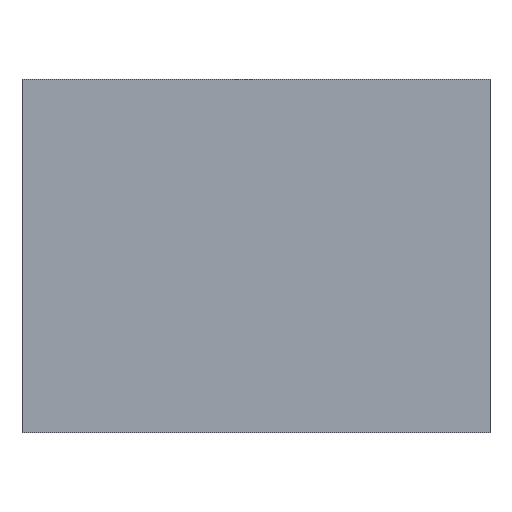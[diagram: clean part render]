
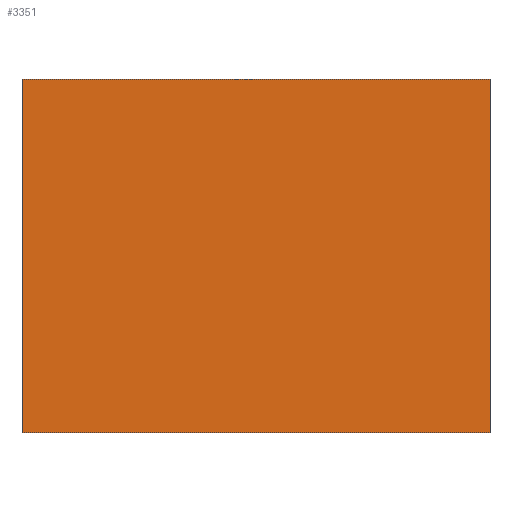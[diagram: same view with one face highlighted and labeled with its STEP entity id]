
A CAD part, top view. The second image highlights one B-rep face of the part: STEP entity #3351.
In plain terms, the highlighted planar face has unit normal (0, 0, 1).
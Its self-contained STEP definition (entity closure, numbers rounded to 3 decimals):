
#3215=CARTESIAN_POINT('Vertex',(102.5,77.5,25.)) ;
#3229=CARTESIAN_POINT('Vertex',(-102.5,77.5,25.)) ;
#3232=CARTESIAN_POINT('Line Origine',(0.,77.5,25.)) ;
#3260=CARTESIAN_POINT('Vertex',(-102.5,-77.5,25.)) ;
#3263=CARTESIAN_POINT('Line Origine',(-102.5,0.,25.)) ;
#3291=CARTESIAN_POINT('Vertex',(102.5,-77.5,25.)) ;
#3294=CARTESIAN_POINT('Line Origine',(0.,-77.5,25.)) ;
#3316=CARTESIAN_POINT('Line Origine',(102.5,0.,25.)) ;
#3340=CARTESIAN_POINT('Axis2P3D Location',(0.,0.,25.)) ;
#3233=DIRECTION('Vector Direction',(1.,0.,0.)) ;
#3264=DIRECTION('Vector Direction',(0.,1.,0.)) ;
#3295=DIRECTION('Vector Direction',(-1.,0.,0.)) ;
#3317=DIRECTION('Vector Direction',(0.,-1.,0.)) ;
#3341=DIRECTION('Axis2P3D Direction',(0.,0.,1.)) ;
#3342=DIRECTION('Axis2P3D XDirection',(1.,0.,0.)) ;
#3343=AXIS2_PLACEMENT_3D('Plane Axis2P3D',#3340,#3341,#3342) ;
#3346=ORIENTED_EDGE('',*,*,#3236,.T.) ;
#3347=ORIENTED_EDGE('',*,*,#3267,.T.) ;
#3348=ORIENTED_EDGE('',*,*,#3298,.T.) ;
#3349=ORIENTED_EDGE('',*,*,#3320,.T.) ;
#3234=VECTOR('Line Direction',#3233,1.) ;
#3265=VECTOR('Line Direction',#3264,1.) ;
#3296=VECTOR('Line Direction',#3295,1.) ;
#3318=VECTOR('Line Direction',#3317,1.) ;
#3351=ADVANCED_FACE('cavity',(#3350),#3344,.T.) ;
#3236=EDGE_CURVE('',#3216,#3230,#3235,.F.) ;
#3267=EDGE_CURVE('',#3230,#3261,#3266,.F.) ;
#3298=EDGE_CURVE('',#3261,#3292,#3297,.F.) ;
#3320=EDGE_CURVE('',#3292,#3216,#3319,.F.) ;
#3345=EDGE_LOOP('',(#3346,#3347,#3348,#3349)) ;
#3350=FACE_OUTER_BOUND('',#3345,.T.) ;
#3235=LINE('Line',#3232,#3234) ;
#3266=LINE('Line',#3263,#3265) ;
#3297=LINE('Line',#3294,#3296) ;
#3319=LINE('Line',#3316,#3318) ;
#3344=PLANE('Plane',#3343) ;
#3216=VERTEX_POINT('',#3215) ;
#3230=VERTEX_POINT('',#3229) ;
#3261=VERTEX_POINT('',#3260) ;
#3292=VERTEX_POINT('',#3291) ;
